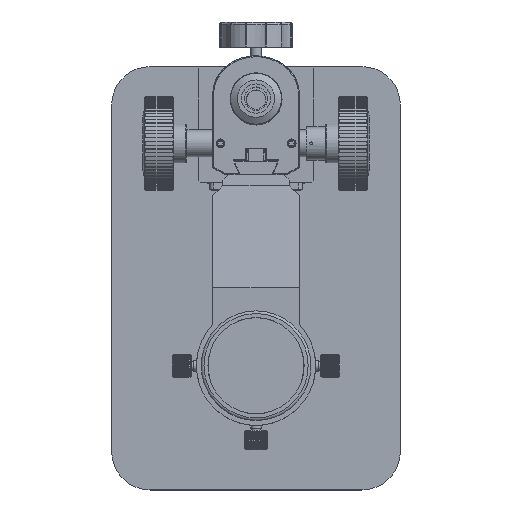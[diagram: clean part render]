
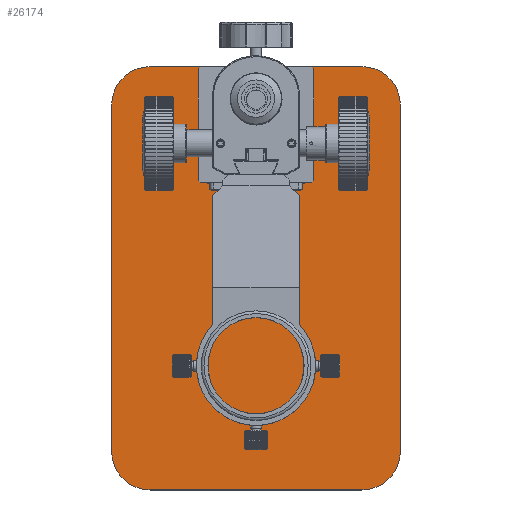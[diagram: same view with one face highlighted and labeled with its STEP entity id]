
A CAD part, top view. The second image highlights one B-rep face of the part: STEP entity #26174.
In plain terms, the highlighted planar face has unit normal (0, 0, 1).
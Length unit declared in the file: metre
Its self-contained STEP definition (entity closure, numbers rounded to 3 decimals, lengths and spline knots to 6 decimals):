
#26174=ADVANCED_FACE('0:132651',(#50324),#50325,.F.);
#50324=FACE_OUTER_BOUND('',#137540,.T.);
#50325=PLANE('',#137541);
#137540=EDGE_LOOP('',(#168622,#168623,#168624,#168625,#168626,#168627,#168628,#168629));
#137541=AXIS2_PLACEMENT_3D('',#168630,#168631,#168632);
#168622=ORIENTED_EDGE('',*,*,#171263,.F.);
#168623=ORIENTED_EDGE('',*,*,#171236,.T.);
#168624=ORIENTED_EDGE('',*,*,#171265,.F.);
#168625=ORIENTED_EDGE('',*,*,#171251,.T.);
#168626=ORIENTED_EDGE('',*,*,#171257,.F.);
#168627=ORIENTED_EDGE('',*,*,#171246,.T.);
#168628=ORIENTED_EDGE('',*,*,#171260,.F.);
#168629=ORIENTED_EDGE('',*,*,#171241,.T.);
#168630=CARTESIAN_POINT('',(0.02225,0.,0.003));
#168631=DIRECTION('',(0.0,-0.0,-1.0));
#168632=DIRECTION('',(0.0,-1.0,0.0));
#171236=EDGE_CURVE('0:132681',#173871,#173872,#173873,.F.);
#171241=EDGE_CURVE('0:132693',#173880,#173881,#173882,.F.);
#171246=EDGE_CURVE('0:132705',#173889,#173890,#173891,.F.);
#171251=EDGE_CURVE('0:132717',#173898,#173899,#173900,.F.);
#171257=EDGE_CURVE('0:132741',#173889,#173899,#173908,.T.);
#171260=EDGE_CURVE('0:132744',#173880,#173890,#173911,.F.);
#171263=EDGE_CURVE('0:132747',#173871,#173881,#173914,.T.);
#171265=EDGE_CURVE('0:132750',#173898,#173872,#173916,.T.);
#173871=VERTEX_POINT('',#176522);
#173872=VERTEX_POINT('',#176523);
#173873=CIRCLE('',#176524,0.02);
#173880=VERTEX_POINT('',#176533);
#173881=VERTEX_POINT('',#176534);
#173882=CIRCLE('',#176535,0.02);
#173889=VERTEX_POINT('',#176544);
#173890=VERTEX_POINT('',#176545);
#173891=CIRCLE('',#176546,0.02);
#173898=VERTEX_POINT('',#176555);
#173899=VERTEX_POINT('',#176556);
#173900=CIRCLE('',#176557,0.02);
#173908=LINE('',#176568,#176569);
#173911=LINE('',#176573,#176574);
#173914=LINE('',#176578,#176579);
#173916=LINE('',#176581,#176582);
#176522=CARTESIAN_POINT('',(-0.075,-0.16975,0.003));
#176523=CARTESIAN_POINT('',(-0.055,-0.18975,0.003));
#176524=AXIS2_PLACEMENT_3D('',#176588,#176589,#176590);
#176533=CARTESIAN_POINT('',(-0.055,0.03025,0.003));
#176534=CARTESIAN_POINT('',(-0.075,0.01025,0.003));
#176535=AXIS2_PLACEMENT_3D('',#176596,#176597,#176598);
#176544=CARTESIAN_POINT('',(0.075,0.01025,0.003));
#176545=CARTESIAN_POINT('',(0.055,0.03025,0.003));
#176546=AXIS2_PLACEMENT_3D('',#176604,#176605,#176606);
#176555=CARTESIAN_POINT('',(0.055,-0.18975,0.003));
#176556=CARTESIAN_POINT('',(0.075,-0.16975,0.003));
#176557=AXIS2_PLACEMENT_3D('',#176612,#176613,#176614);
#176568=CARTESIAN_POINT('',(0.075,0.03025,0.003));
#176569=VECTOR('',#176621,1.0);
#176573=CARTESIAN_POINT('',(0.0197,0.03025,0.003));
#176574=VECTOR('',#176623,1.0);
#176578=CARTESIAN_POINT('',(-0.075,-0.18975,0.003));
#176579=VECTOR('',#176625,1.0);
#176581=CARTESIAN_POINT('',(0.075,-0.18975,0.003));
#176582=VECTOR('',#176626,1.0);
#176588=CARTESIAN_POINT('',(-0.055,-0.16975,0.003));
#176589=DIRECTION('',(0.0,0.0,-1.0));
#176590=DIRECTION('',(-1.0,0.0,0.0));
#176596=CARTESIAN_POINT('',(-0.055,0.01025,0.003));
#176597=DIRECTION('',(0.0,0.0,-1.0));
#176598=DIRECTION('',(-1.0,0.0,0.0));
#176604=CARTESIAN_POINT('',(0.055,0.01025,0.003));
#176605=DIRECTION('',(0.0,0.0,-1.0));
#176606=DIRECTION('',(-1.0,0.0,0.0));
#176612=CARTESIAN_POINT('',(0.055,-0.16975,0.003));
#176613=DIRECTION('',(0.0,0.0,-1.0));
#176614=DIRECTION('',(-1.0,0.0,0.0));
#176621=DIRECTION('',(0.0,-1.0,0.0));
#176623=DIRECTION('',(-1.0,0.,0.0));
#176625=DIRECTION('',(0.0,1.0,0.0));
#176626=DIRECTION('',(-1.0,0.0,0.0));
